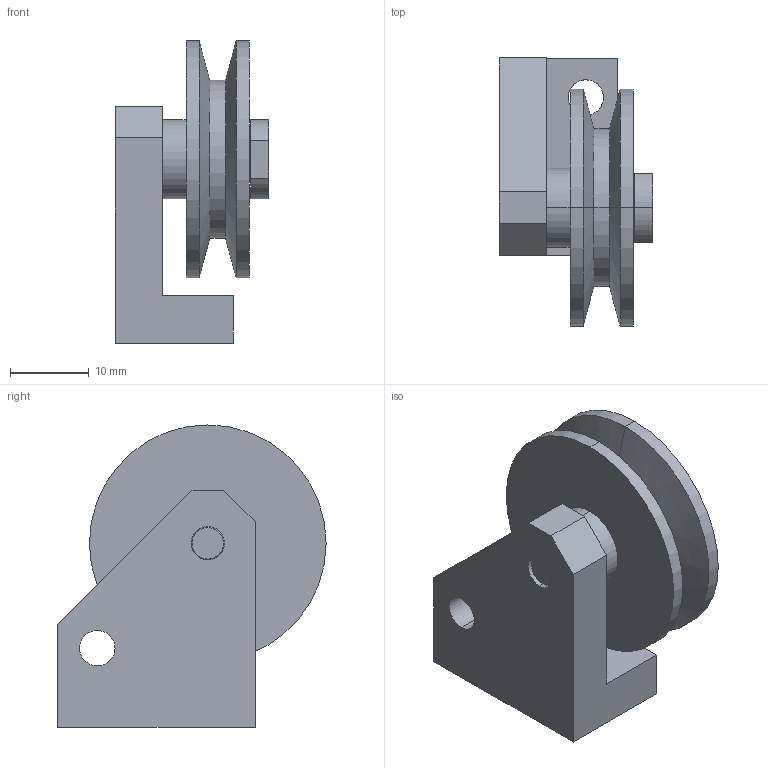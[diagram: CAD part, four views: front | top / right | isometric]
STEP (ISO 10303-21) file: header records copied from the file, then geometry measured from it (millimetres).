
FILE_DESCRIPTION (( 'STEP AP214' ), '1' );
FILE_NAME ('Zusammenstellung_UR.STEP', '2015-02-10T14:59:40', ( '' ), ( '' ), 'SwSTEP 2.0', 'SolidWorks 2013', '' );
FILE_SCHEMA (( 'AUTOMOTIVE_DESIGN' ));
Length unit declared in the file: millimetre
Products named in the file (4): Zusammenstellung_UR; Winkel_75249~0; Bolzen_75248~0; Umlenkrolle_75247~0
Assembly tree (3 placements, depth 2):
  Zusammenstellung_UR
    Winkel_75249~0
    Bolzen_75248~0
    Umlenkrolle_75247~0
Bounding box: 19.5 x 34 x 38.3 mm (x, y, z)
Volume: 9469.7 mm3; surface area: 5929.9 mm2
Topology: 3 solids, 3 shells, 57 faces, 125 edges, 78 vertices
Faces by surface type: cylinder 27, plane 20, cone 8, torus 2
Entity records: 1785 total; most frequent: DIRECTION 311, CARTESIAN_POINT 266, ORIENTED_EDGE 250, EDGE_CURVE 125, AXIS2_PLACEMENT_3D 123, VERTEX_POINT 78, EDGE_LOOP 69, LINE 65
